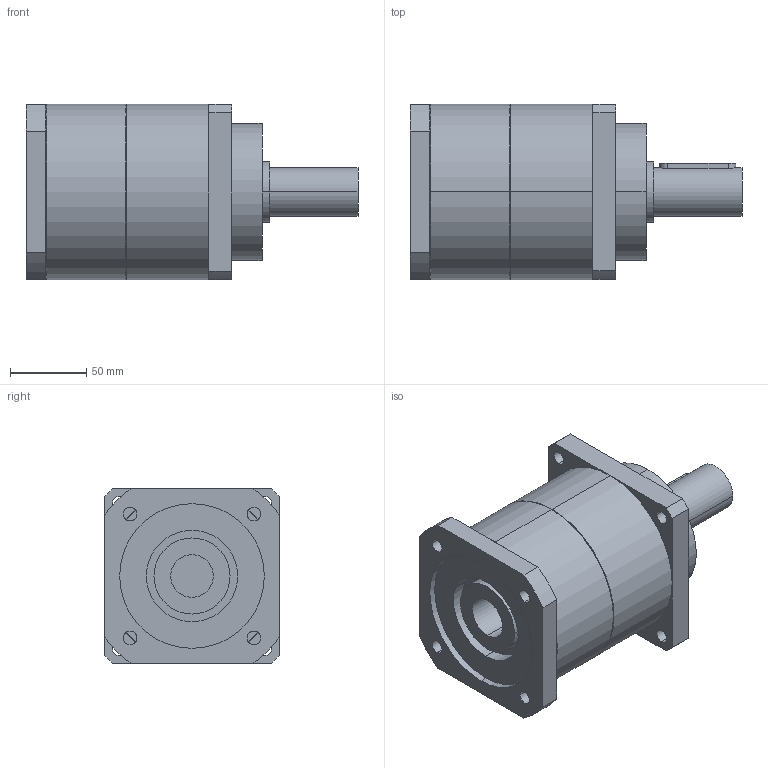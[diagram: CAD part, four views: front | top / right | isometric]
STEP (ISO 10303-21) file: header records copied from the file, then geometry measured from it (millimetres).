
FILE_DESCRIPTION(('CoCreate Modeling STEP Export'),'2;1');
FILE_NAME('GPT120_ig-3-4-5-7-10_32_B5A_28_P06.stp','2015-02-04T17:00:33',(''),(''),'CoCreate Modeling STEP processor for AP214 (Solid Model)','CoCreate Modeling 16.00C 25-Feb-2009 (C) Parametric Technology GmbH','');
FILE_SCHEMA(('AUTOMOTIVE_DESIGN { 1 0 10303 214 1 1 1 1 }'));
Length unit declared in the file: millimetre
Products named in the file (2): GPT120_ig-3-4-5-7-10_32_B5A_28_P06
Assembly tree (1 placements, depth 2):
  GPT120_ig-3-4-5-7-10_32_B5A_28_P06
    GPT120_ig-3-4-5-7-10_32_B5A_28_P06
Bounding box: 218 x 115 x 115 mm (x, y, z)
Volume: 1568858 mm3; surface area: 106996.7 mm2
Topology: 1 solids, 1 shells, 81 faces, 220 edges, 147 vertices
Faces by surface type: cylinder 46, plane 31, cone 4
Entity records: 2661 total; most frequent: CARTESIAN_POINT 772, ORIENTED_EDGE 440, DIRECTION 330, EDGE_CURVE 220, VERTEX_POINT 147, AXIS2_PLACEMENT_3D 123, EDGE_LOOP 103, VECTOR 84
